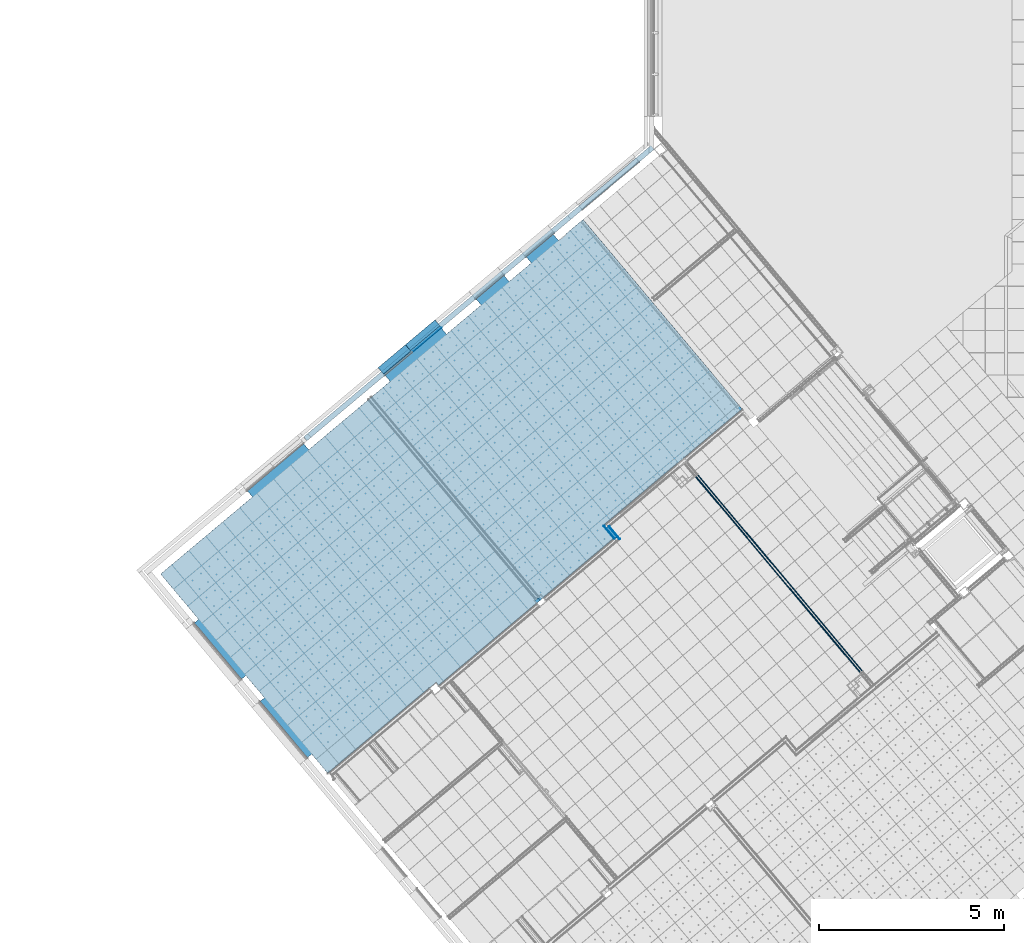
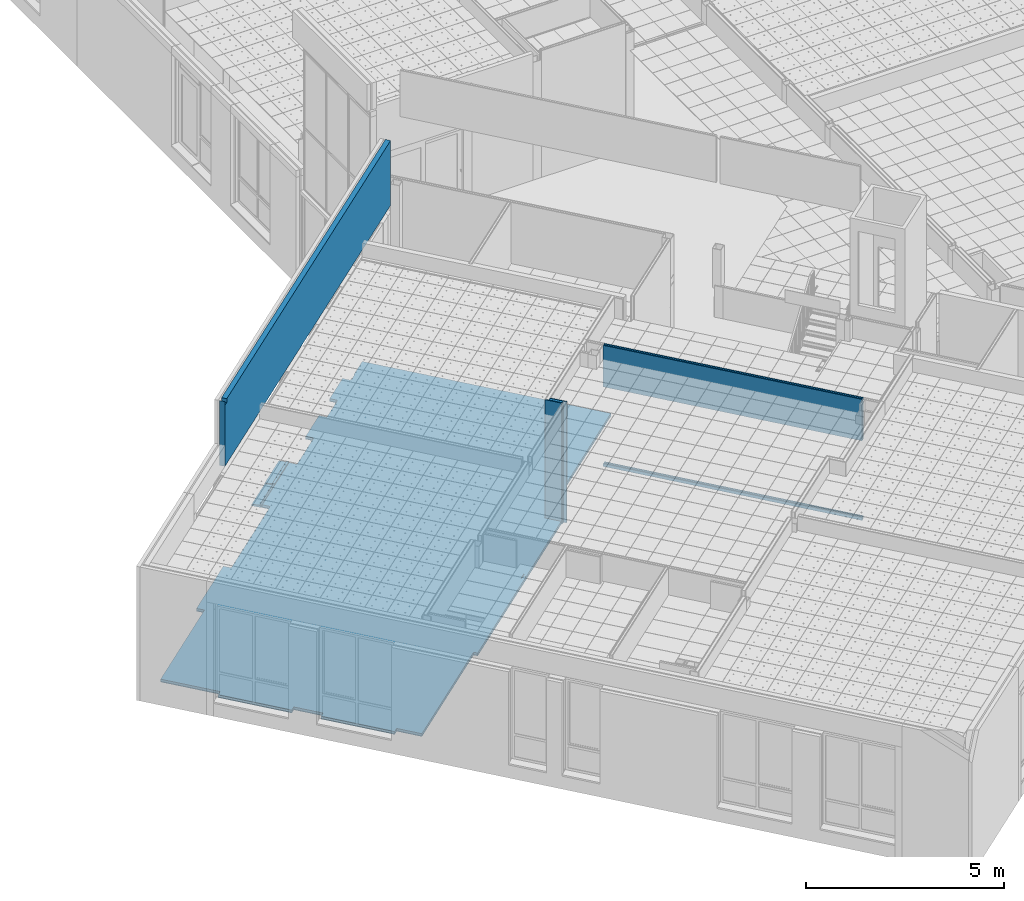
# One storey, part 60 of 338: 17 building element parts, 3 openings, 6 elements without a shape of their own.
"""IFC2X3 building model written with IfcOpenShell, lengths in millimetres."""

from ifc_helpers import new_model, entity, si_unit, converted_unit, derived_unit, money_unit, direction, frame, origin_with_axes, place, context, subcontext, project, spatial, faceted_brep, material, type_object, element, aggregate, save


model = new_model("IFC2X3")

# Units and contexts
model_context = context("Model", 3, precision=0.01, world=origin_with_axes(), true_north=direction((0.0, 1.0)))
plan_context = context("Plan", 3, precision=0.01, world=origin_with_axes(), true_north=direction((0.0, 1.0)))
body_context = subcontext(model_context, "Body", "Model", "MODEL_VIEW")
ifc_project = project(units=[si_unit("LENGTHUNIT", "METRE", prefix="MILLI"), si_unit("AREAUNIT", "SQUARE_METRE"), si_unit("VOLUMEUNIT", "CUBIC_METRE"), converted_unit("PLANEANGLEUNIT", "DEGREE", entity("IfcPlaneAngleMeasure", 0.0174532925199), si_unit("PLANEANGLEUNIT", "RADIAN"), dimensions=[0, 0, 0, 0, 0, 0, 0]), money_unit("EUR"), converted_unit("TIMEUNIT", "Year", entity("IfcTimeMeasure", 31556926.0), si_unit("TIMEUNIT", "SECOND"), dimensions=[0, 0, 1, 0, 0, 0, 0]), si_unit("MASSUNIT", "GRAM", prefix="KILO"), si_unit("THERMODYNAMICTEMPERATUREUNIT", "DEGREE_CELSIUS"), si_unit("LUMINOUSINTENSITYUNIT", "LUMEN"), si_unit("ENERGYUNIT", "JOULE", prefix="MEGA"), derived_unit("THERMALCONDUCTANCEUNIT", [(si_unit("POWERUNIT", "WATT"), 1), (si_unit("LENGTHUNIT", "METRE"), -1), (si_unit("THERMODYNAMICTEMPERATUREUNIT", "KELVIN"), -1)]), derived_unit("SPECIFICHEATCAPACITYUNIT", [(si_unit("ENERGYUNIT", "JOULE"), 1), (si_unit("MASSUNIT", "GRAM", prefix="KILO"), -1), (si_unit("THERMODYNAMICTEMPERATUREUNIT", "KELVIN"), -1)]), derived_unit("MASSDENSITYUNIT", [(si_unit("MASSUNIT", "GRAM", prefix="KILO"), 1), (si_unit("VOLUMEUNIT", "CUBIC_METRE"), -1)])], contexts=[model_context, plan_context])

# Site, building, storey
site_placement = place(None, origin_with_axes())
site = spatial("IfcSite", under=ifc_project, at=site_placement, Name="Fortuinstraat Woensdrecht", CompositionType="ELEMENT")
building_placement = place(site_placement, origin_with_axes())
building = spatial("IfcBuilding", under=site, at=building_placement, Name="IKC Fortuna", CompositionType="ELEMENT")
storey_placement = place(building_placement, origin_with_axes())
storey = spatial("IfcBuildingStorey", under=building, at=storey_placement, Name="00 begane grond", CompositionType="ELEMENT", Elevation=0.0)

# Covering, building element parts
covering_type_1 = type_object("IfcCoveringType", Name="43 Vloerafwerking 90", PredefinedType="FLOORING")
covering_1_placement = place(storey_placement, frame((252.463214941, -67.5154339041, 1450.0), z_axis=(0.0, 0.0, 1.0), x_axis=(1.0, 0.0, 0.0)))
covering_1 = element("IfcCovering", 1, at=covering_1_placement, inside=storey, type_object=covering_type_1, Name="43_Vloerafwerking_Vloerafwerking", PredefinedType="FLOORING")
ifc_material_1 = material(Name="Cement")
building_element_part_1_placement = place(covering_1_placement, origin_with_axes())
building_element_part_1 = element("IfcBuildingElementPart", 2, at=building_element_part_1_placement, material=ifc_material_1, Name="Cement", context=body_context, shape_type="Brep", body=[
    faceted_brep([(10114.0137985, -711.641655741, 0.0), (10282.543576, -570.22838161, 0.0), (10289.6142397, -578.654870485, 0.0), (10221.8193065, -635.541573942, 0.0), (10216.4750163, -643.174011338, 0.0), (10215.6629439, -652.456041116, 0.0), (10219.6006835, -660.900550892, 0.0), (10262.9048588, -712.508457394, 0.0), (12254.7359826, 958.836293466, 0.0), (11965.3650657, 1303.69520408, 0.0), (15723.5788635, 4457.21090519, 0.0), (11421.7227615, 9583.9633695, 0.0), (10955.7405851, 9192.95802698, 0.0), (10967.3840909, 9179.08273843, 0.0), (10788.1295177, 9028.6700074, 0.0), (10776.4862771, 9042.54572504, 0.0), (10751.3797076, 9021.47881181, 0.0), (10613.8959943, 9185.32552107, 0.0), (9884.20122385, 8573.03897664, 0.0), (10021.684974, 8409.19213156, 0.0), (9421.10611273, 7905.24672901, 0.0), (9420.81456148, 7905.00208845, 0.0), (9283.258013, 8068.93559928, 0.0), (8528.22965173, 7435.39159881, 0.0), (8665.78623068, 7271.45815281, 0.0), (7728.1477498, 6484.68599107, 0.0), (7727.85634218, 6484.44147105, 0.0), (7590.29979371, 6648.37498187, 0.0), (6069.22702805, 5372.04338136, 0.0), (6206.783607, 5208.10993536, 0.0), (4005.17183099, 3360.73827072, 0.0), (4004.88034863, 3360.49368797, 0.0), (3867.32380015, 3524.4271988, 0.0), (2346.25102332, 2248.09552998, 0.0), (2483.80760228, 2084.16208398, 0.0), (0.0, 0.0, 0.0), (1027.17469669, -1224.13907047, 0.0), (1028.4601755, -1225.67104446, 0.0), (913.553509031, -1322.08918591, 0.0), (2189.86889768, -2843.14260856, 0.0), (2304.7754838, -2746.72450246, 0.0), (2807.69622062, -3346.08201943, 0.0), (2692.78963449, -3442.50012553, 0.0), (3969.36590078, -4963.86452092, 0.0), (4084.2724869, -4867.44641482, 0.0), (4520.52031705, -5387.34630129, 0.0), (7447.95666909, -2930.93563623, 0.0), (7518.66340472, -3015.20043493, 0.0), (10257.5425477, -717.007970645, 0.0), (10214.2383724, -665.40006416, 0.0), (10206.605935, -660.05577396, 0.0), (10197.3239052, -659.24370158, 0.0), (10188.8793954, -663.181441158, 0.0), (10121.0844622, -720.068144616, 0.0), (10114.0137985, -711.641655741, -50.0), (10282.543576, -570.22838161, -50.0), (10289.6142397, -578.654870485, -50.0), (10221.8193065, -635.541573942, -50.0), (10216.4750163, -643.174011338, -50.0), (10215.6629439, -652.456041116, -50.0), (10219.6006835, -660.900550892, -50.0), (10262.906778, -712.510744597, -50.0), (10257.5444631, -717.010253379, -50.0), (7518.66340472, -3015.20043493, -70.0), (12254.7359826, 958.836293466, -70.0), (11965.3650657, 1303.69520408, -70.0), (15723.5788635, 4457.21090519, -70.0), (11421.7227615, 9583.9633695, -70.0), (10955.7405851, 9192.95802698, -70.0), (10967.3840909, 9179.08273843, -70.0), (10788.1295177, 9028.6700074, -70.0), (10776.4862771, 9042.54572504, -70.0), (10751.3797076, 9021.47881181, -70.0), (10613.8959943, 9185.32552107, -70.0), (9884.20122385, 8573.03897664, -70.0), (10021.684974, 8409.19213156, -70.0), (9421.10611273, 7905.24672901, -70.0), (9420.81456148, 7905.00208845, -70.0), (9283.258013, 8068.93559928, -70.0), (8528.22965173, 7435.39159881, -70.0), (8665.78623068, 7271.45815281, -70.0), (7728.1477498, 6484.68599107, -70.0), (7727.85634218, 6484.44147105, -70.0), (7590.29979371, 6648.37498187, -70.0), (6069.22702805, 5372.04338136, -70.0), (6206.783607, 5208.10993536, -70.0), (4005.17183099, 3360.73827072, -70.0), (4004.88034863, 3360.49368797, -70.0), (3867.32380015, 3524.4271988, -70.0), (2346.25102332, 2248.09552998, -70.0), (2483.80760228, 2084.16208398, -70.0), (0.0, 0.0, -70.0), (1027.17469669, -1224.13907047, -70.0), (1028.4601755, -1225.67104446, -70.0), (913.553509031, -1322.08918591, -70.0), (2189.86889768, -2843.14260856, -70.0), (2304.7754838, -2746.72450246, -70.0), (2807.69622062, -3346.08201943, -70.0), (2692.78963449, -3442.50012553, -70.0), (3969.36590078, -4963.86452092, -70.0), (4084.2724869, -4867.44641482, -70.0), (4520.52031705, -5387.34630129, -70.0), (7447.95666909, -2930.93563623, -70.0), (10214.2383724, -665.40006416, -50.0), (10206.605935, -660.05577396, -50.0), (10197.3239052, -659.24370158, -50.0), (10188.8793954, -663.181441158, -50.0), (10121.0844622, -720.068144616, -50.0)], [[[0, 1, 2, 3, 4, 5, 6, 7, 8, 9, 10, 11, 12, 13, 14, 15, 16, 17, 18, 19, 20, 21, 22, 23, 24, 25, 26, 27, 28, 29, 30, 31, 32, 33, 34, 35, 36, 37, 38, 39, 40, 41, 42, 43, 44, 45, 46, 47, 48, 49, 50, 51, 52, 53]], [[1, 0, 54, 55]], [[2, 1, 55, 56]], [[3, 2, 56, 57]], [[4, 3, 57, 58]], [[5, 4, 58, 59]], [[6, 5, 59, 60]], [[61, 7, 6, 60]], [[62, 48, 47, 63, 64, 8, 7, 61]], [[8, 64, 65, 9]], [[65, 66, 10, 9]], [[67, 11, 10, 66]], [[12, 11, 67, 68]], [[12, 68, 69, 13]], [[13, 69, 70, 14]], [[70, 71, 15, 14]], [[72, 16, 15, 71]], [[73, 17, 16, 72]], [[18, 17, 73, 74]], [[18, 74, 75, 19]], [[75, 76, 20, 19]], [[77, 21, 20, 76]], [[78, 22, 21, 77]], [[23, 22, 78, 79]], [[23, 79, 80, 24]], [[80, 81, 25, 24]], [[82, 26, 25, 81]], [[83, 27, 26, 82]], [[28, 27, 83, 84]], [[28, 84, 85, 29]], [[85, 86, 30, 29]], [[87, 31, 30, 86]], [[88, 32, 31, 87]], [[33, 32, 88, 89]], [[33, 89, 90, 34]], [[34, 90, 91, 35]], [[91, 92, 36, 35]], [[93, 37, 36, 92]], [[94, 38, 37, 93]], [[39, 38, 94, 95]], [[39, 95, 96, 40]], [[40, 96, 97, 41]], [[41, 97, 98, 42]], [[42, 98, 99, 43]], [[43, 99, 100, 44]], [[44, 100, 101, 45]], [[45, 101, 102, 46]], [[46, 102, 63, 47]], [[49, 48, 62, 103]], [[50, 49, 103, 104]], [[51, 50, 104, 105]], [[52, 51, 105, 106]], [[53, 52, 106, 107]], [[0, 53, 107, 54]], [[62, 61, 60, 59, 58, 57, 56, 55, 54, 107, 106, 105, 104, 103]], [[73, 72, 71, 70, 69, 68, 67, 66, 65, 64, 63, 102, 101, 100, 99, 98, 97, 96, 95, 94, 93, 92, 91, 90, 89, 88, 87, 86, 85, 84, 83, 82, 81, 80, 79, 78, 77, 76, 75, 74]]]),
])
ifc_material_2 = material(Name="Isolatie - XPS zwevende dekvloer")
building_element_part_2_placement = place(covering_1_placement, origin_with_axes())
building_element_part_2 = element("IfcBuildingElementPart", 3, at=building_element_part_2_placement, material=ifc_material_2, Name="Isolatie - XPS zwevende dekvloer", context=body_context, shape_type="Brep", body=[
    faceted_brep([(10788.1295177, 9028.6700074, -70.0), (10788.1295177, 9028.6700074, -90.0), (10776.4862771, 9042.54572504, -90.0), (10776.4862771, 9042.54572504, -70.0), (10967.3840909, 9179.08273843, -70.0), (10967.3840909, 9179.08273843, -90.0), (9884.20122385, 8573.03897664, -90.0), (10613.8959943, 9185.32552107, -90.0), (10751.3797076, 9021.47881181, -90.0), (10955.7405851, 9192.95802698, -90.0), (11421.7227615, 9583.9633695, -90.0), (15723.5788635, 4457.21090519, -90.0), (11965.3650657, 1303.69520408, -90.0), (12254.7359826, 958.836293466, -90.0), (7518.66340472, -3015.20043493, -90.0), (7447.95666909, -2930.93563623, -90.0), (4520.52031705, -5387.34630129, -90.0), (4084.2724869, -4867.44641482, -90.0), (3969.36590078, -4963.86452092, -90.0), (2692.78963449, -3442.50012553, -90.0), (2807.69622062, -3346.08201943, -90.0), (2304.7754838, -2746.72450246, -90.0), (2189.86889768, -2843.14260856, -90.0), (913.553509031, -1322.08918591, -90.0), (1028.4601755, -1225.67104446, -90.0), (1027.17469669, -1224.13907047, -90.0), (0.0, 0.0, -90.0), (2483.80760228, 2084.16208398, -90.0), (2346.25102332, 2248.09552998, -90.0), (3867.32380015, 3524.4271988, -90.0), (4004.88034863, 3360.49368797, -90.0), (4005.17183099, 3360.73827072, -90.0), (6206.783607, 5208.10993536, -90.0), (6069.22702805, 5372.04338136, -90.0), (7590.29979371, 6648.37498187, -90.0), (7727.85634218, 6484.44147105, -90.0), (7728.1477498, 6484.68599107, -90.0), (8665.78623068, 7271.45815281, -90.0), (8528.22965173, 7435.39159881, -90.0), (9283.258013, 8068.93559928, -90.0), (9420.81456148, 7905.00208845, -90.0), (9421.10611273, 7905.24672901, -90.0), (10021.684974, 8409.19213156, -90.0), (10751.3797076, 9021.47881181, -70.0), (10613.8959943, 9185.32552107, -70.0), (9884.20122385, 8573.03897664, -70.0), (10021.684974, 8409.19213156, -70.0), (9421.10611273, 7905.24672901, -70.0), (9420.81456148, 7905.00208845, -70.0), (9283.258013, 8068.93559928, -70.0), (8528.22965173, 7435.39159881, -70.0), (8665.78623068, 7271.45815281, -70.0), (7728.1477498, 6484.68599107, -70.0), (7727.85634218, 6484.44147105, -70.0), (7590.29979371, 6648.37498187, -70.0), (6069.22702805, 5372.04338136, -70.0), (6206.783607, 5208.10993536, -70.0), (4005.17183099, 3360.73827072, -70.0), (4004.88034863, 3360.49368797, -70.0), (3867.32380015, 3524.4271988, -70.0), (2346.25102332, 2248.09552998, -70.0), (2483.80760228, 2084.16208398, -70.0), (0.0, 0.0, -70.0), (1027.17469669, -1224.13907047, -70.0), (1028.4601755, -1225.67104446, -70.0), (913.553509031, -1322.08918591, -70.0), (2189.86889768, -2843.14260856, -70.0), (2304.7754838, -2746.72450246, -70.0), (2807.69622062, -3346.08201943, -70.0), (2692.78963449, -3442.50012553, -70.0), (3969.36590078, -4963.86452092, -70.0), (4084.2724869, -4867.44641482, -70.0), (4520.52031705, -5387.34630129, -70.0), (7447.95666909, -2930.93563623, -70.0), (7518.66340472, -3015.20043493, -70.0), (12254.7359826, 958.836293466, -70.0), (11965.3650657, 1303.69520408, -70.0), (15723.5788635, 4457.21090519, -70.0), (11421.7227615, 9583.9633695, -70.0), (10955.7405851, 9192.95802698, -70.0)], [[[0, 1, 2, 3]], [[1, 0, 4, 5]], [[6, 7, 8, 2, 1, 5, 9, 10, 11, 12, 13, 14, 15, 16, 17, 18, 19, 20, 21, 22, 23, 24, 25, 26, 27, 28, 29, 30, 31, 32, 33, 34, 35, 36, 37, 38, 39, 40, 41, 42]], [[2, 8, 43, 3]], [[0, 3, 43, 44, 45, 46, 47, 48, 49, 50, 51, 52, 53, 54, 55, 56, 57, 58, 59, 60, 61, 62, 63, 64, 65, 66, 67, 68, 69, 70, 71, 72, 73, 74, 75, 76, 77, 78, 79, 4]], [[5, 4, 79, 9]], [[6, 45, 44, 7]], [[8, 7, 44, 43]], [[9, 79, 78, 10]], [[11, 10, 78, 77]], [[76, 12, 11, 77]], [[12, 76, 75, 13]], [[13, 75, 74, 14]], [[14, 74, 73, 15]], [[15, 73, 72, 16]], [[16, 72, 71, 17]], [[17, 71, 70, 18]], [[18, 70, 69, 19]], [[19, 69, 68, 20]], [[20, 68, 67, 21]], [[21, 67, 66, 22]], [[22, 66, 65, 23]], [[24, 23, 65, 64]], [[25, 24, 64, 63]], [[62, 26, 25, 63]], [[26, 62, 61, 27]], [[27, 61, 60, 28]], [[28, 60, 59, 29]], [[30, 29, 59, 58]], [[31, 30, 58, 57]], [[56, 32, 31, 57]], [[32, 56, 55, 33]], [[33, 55, 54, 34]], [[35, 34, 54, 53]], [[36, 35, 53, 52]], [[51, 37, 36, 52]], [[37, 51, 50, 38]], [[38, 50, 49, 39]], [[40, 39, 49, 48]], [[41, 40, 48, 47]], [[46, 42, 41, 47]], [[42, 46, 45, 6]]]),
])
aggregate(covering_1, [building_element_part_1, building_element_part_2])

# Wall, openings, building element parts
wall_type_1 = type_object("IfcWallType", Name="MS100 2.50.2A 100", PredefinedType="NOTDEFINED")
wall_1_placement = place(storey_placement, frame((19252.4628668, -2704.22469748, 1360.0), z_axis=(0.0, 0.0, 1.0), x_axis=(-0.642787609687, 0.766044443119, 0.0)))
wall_1 = element("IfcWall", 4, at=wall_1_placement, inside=storey, type_object=wall_type_1, Name="22_Wand_Binnenwand")
opening_1_placement = place(wall_1_placement, frame((5886.46009833, 0.0, 90.0), z_axis=(0.0, 0.0, 1.0), x_axis=(1.0, 0.0, 0.0)))
element("IfcOpeningElement", 5, at=opening_1_placement, cuts=wall_1, Name="32_Raam_h.09", context=body_context, shape_type="Brep", body=[
    faceted_brep([(-1078.84079083, 100.0, 2367.0), (-1078.84079083, 100.0, 0.0), (-1078.84079083, -200.0, 0.0), (-1078.84079083, -200.0, 2367.0), (1078.84079083, 100.0, 2367.0), (1078.84079083, 100.0, 0.0), (1078.84079083, -200.0, 0.0), (1078.84079083, -200.0, 2367.0)], [[[0, 1, 2, 3]], [[0, 4, 5, 1]], [[1, 5, 6, 2]], [[3, 2, 6, 7]], [[4, 0, 3, 7]], [[5, 4, 7, 6]]]),
])
opening_2_placement = place(wall_1_placement, frame((1508.80965375, 0.0, 90.0), z_axis=(0.0, 0.0, 1.0), x_axis=(1.0, 0.0, 0.0)))
element("IfcOpeningElement", 6, at=opening_2_placement, cuts=wall_1, Name="32_Raam_h.07", context=body_context, shape_type="Brep", body=[
    faceted_brep([(-1508.80965375, 100.0, 2367.0), (-1508.80965375, 100.0, 0.0), (-1508.80965375, -200.0, 0.0), (-1508.80965375, -200.0, 2367.0), (1508.80965375, 100.0, 2367.0), (1508.80965375, 100.0, 0.0), (1508.80965375, -200.0, 0.0), (1508.80965375, -200.0, 2367.0)], [[[0, 1, 2, 3]], [[0, 4, 5, 1]], [[1, 5, 6, 2]], [[3, 2, 6, 7]], [[4, 0, 3, 7]], [[5, 4, 7, 6]]]),
])
opening_3_placement = place(wall_1_placement, frame((3912.6193075, 0.0, 90.0), z_axis=(0.0, 0.0, 1.0), x_axis=(1.0, 0.0, 0.0)))
element("IfcOpeningElement", 7, at=opening_3_placement, cuts=wall_1, Name="32_Deur_h.08", context=body_context, shape_type="Brep", body=[
    faceted_brep([(895.0, -100.0, 2367.0), (895.0, -100.0, 0.0), (895.0, 214.0, 0.0), (895.0, 214.0, 2367.0), (-895.0, -100.0, 2367.0), (-895.0, -100.0, 0.0), (-895.0, 214.0, 0.0), (-895.0, 214.0, 2367.0)], [[[0, 1, 2, 3]], [[0, 4, 5, 1]], [[1, 5, 6, 2]], [[3, 2, 6, 7]], [[4, 0, 3, 7]], [[5, 4, 7, 6]]]),
])
ifc_material_3 = material(Name="Gipsplaat")
building_element_part_3_placement = place(wall_1_placement, origin_with_axes())
building_element_part_3 = element("IfcBuildingElementPart", 8, at=building_element_part_3_placement, material=ifc_material_3, Name="Gipsplaat", context=body_context, shape_type="Brep", body=[
    faceted_brep([(4807.6193075, 87.5, 90.0), (3017.6193075, 87.5, 90.0), (0.0, 87.5, 90.0), (0.0, 87.5, 0.0), (6965.30088915, 87.5, 0.0), (6965.30088915, 87.5, 90.0), (4807.6193075, 100.0, 90.0), (3017.6193075, 100.0, 90.0), (0.0, 100.0, 90.0), (6965.30088915, 100.0, 90.0), (0.0, 100.0, 0.0), (6965.30088915, 100.0, 0.0)], [[[0, 1, 2, 3, 4, 5]], [[6, 7, 8, 2, 1, 0, 5, 9]], [[8, 10, 3, 2]], [[4, 3, 10, 11]], [[4, 11, 9, 5]], [[7, 6, 9, 11, 10, 8]]]),
    faceted_brep([(3017.6193075, 100.0, 2457.0), (4807.6193075, 100.0, 2457.0), (6965.30088915, 100.0, 2457.0), (6965.30088915, 87.5, 2457.0), (4807.6193075, 87.5, 2457.0), (3017.6193075, 87.5, 2457.0), (0.0, 87.5, 2457.0), (0.0, 100.0, 2457.0), (0.0, 100.0, 3740.0), (6965.30088915, 100.0, 3740.0), (6965.30088915, 87.5, 3740.0), (0.0, 87.5, 3740.0)], [[[0, 1, 2, 3, 4, 5, 6, 7]], [[1, 0, 7, 8, 9, 2]], [[9, 10, 3, 2]], [[5, 4, 3, 10, 11, 6]], [[6, 11, 8, 7]], [[9, 8, 11, 10]]]),
])
building_element_part_4_placement = place(wall_1_placement, origin_with_axes())
building_element_part_4 = element("IfcBuildingElementPart", 9, at=building_element_part_4_placement, material=ifc_material_3, Name="Gipsplaat", context=body_context, shape_type="Brep", body=[
    faceted_brep([(4807.6193075, 75.0, 90.0), (3017.6193075, 75.0, 90.0), (0.0, 75.0, 90.0), (0.0, 75.0, 0.0), (6965.30088915, 75.0, 0.0), (6965.30088915, 75.0, 90.0), (4807.6193075, 87.5, 90.0), (3017.6193075, 87.5, 90.0), (0.0, 87.5, 90.0), (6965.30088915, 87.5, 90.0), (0.0, 87.5, 0.0), (6965.30088915, 87.5, 0.0)], [[[0, 1, 2, 3, 4, 5]], [[6, 7, 8, 2, 1, 0, 5, 9]], [[8, 10, 3, 2]], [[4, 3, 10, 11]], [[4, 11, 9, 5]], [[7, 6, 9, 11, 10, 8]]]),
    faceted_brep([(3017.6193075, 87.5, 2457.0), (4807.6193075, 87.5, 2457.0), (6965.30088915, 87.5, 2457.0), (6965.30088915, 75.0, 2457.0), (4807.6193075, 75.0, 2457.0), (3017.6193075, 75.0, 2457.0), (0.0, 75.0, 2457.0), (0.0, 87.5, 2457.0), (0.0, 87.5, 3740.0), (6965.30088915, 87.5, 3740.0), (6965.30088915, 75.0, 3740.0), (0.0, 75.0, 3740.0)], [[[0, 1, 2, 3, 4, 5, 6, 7]], [[1, 0, 7, 8, 9, 2]], [[9, 10, 3, 2]], [[5, 4, 3, 10, 11, 6]], [[6, 11, 8, 7]], [[9, 8, 11, 10]]]),
])
ifc_material_4 = material(Name="Isolatie - Steenwol LSW")
building_element_part_5_placement = place(wall_1_placement, origin_with_axes())
building_element_part_5 = element("IfcBuildingElementPart", 10, at=building_element_part_5_placement, material=ifc_material_4, Name="Isolatie - Steenwol LSW", context=body_context, shape_type="Brep", body=[
    faceted_brep([(4807.6193075, 25.0, 90.0), (3017.6193075, 25.0, 90.0), (0.0, 25.0, 90.0), (0.0, 25.0, 0.0), (6965.30088915, 25.0, 0.0), (6965.30088915, 25.0, 90.0), (4807.6193075, 75.0, 90.0), (3017.6193075, 75.0, 90.0), (0.0, 75.0, 90.0), (6965.30088915, 75.0, 90.0), (0.0, 75.0, 0.0), (6965.30088915, 75.0, 0.0)], [[[0, 1, 2, 3, 4, 5]], [[6, 7, 8, 2, 1, 0, 5, 9]], [[8, 10, 3, 2]], [[4, 3, 10, 11]], [[4, 11, 9, 5]], [[7, 6, 9, 11, 10, 8]]]),
    faceted_brep([(3017.6193075, 75.0, 2457.0), (4807.6193075, 75.0, 2457.0), (6965.30088915, 75.0, 2457.0), (6965.30088915, 25.0, 2457.0), (4807.6193075, 25.0, 2457.0), (3017.6193075, 25.0, 2457.0), (0.0, 25.0, 2457.0), (0.0, 75.0, 2457.0), (0.0, 75.0, 3740.0), (6965.30088915, 75.0, 3740.0), (6965.30088915, 25.0, 3740.0), (0.0, 25.0, 3740.0)], [[[0, 1, 2, 3, 4, 5, 6, 7]], [[1, 0, 7, 8, 9, 2]], [[9, 10, 3, 2]], [[5, 4, 3, 10, 11, 6]], [[6, 11, 8, 7]], [[9, 8, 11, 10]]]),
])
building_element_part_6_placement = place(wall_1_placement, origin_with_axes())
building_element_part_6 = element("IfcBuildingElementPart", 11, at=building_element_part_6_placement, material=ifc_material_3, Name="Gipsplaat", context=body_context, shape_type="Brep", body=[
    faceted_brep([(4807.6193075, 12.5, 90.0), (3017.6193075, 12.5, 90.0), (0.0, 12.5, 90.0), (0.0, 12.5, 0.0), (6965.30088915, 12.5, 0.0), (6965.30088915, 12.5, 90.0), (4807.6193075, 25.0, 90.0), (3017.6193075, 25.0, 90.0), (0.0, 25.0, 90.0), (6965.30088915, 25.0, 90.0), (0.0, 25.0, 0.0), (6965.30088915, 25.0, 0.0)], [[[0, 1, 2, 3, 4, 5]], [[6, 7, 8, 2, 1, 0, 5, 9]], [[8, 10, 3, 2]], [[4, 3, 10, 11]], [[4, 11, 9, 5]], [[7, 6, 9, 11, 10, 8]]]),
    faceted_brep([(3017.6193075, 25.0, 2457.0), (4807.6193075, 25.0, 2457.0), (6965.30088915, 25.0, 2457.0), (6965.30088915, 12.5, 2457.0), (4807.6193075, 12.5, 2457.0), (3017.6193075, 12.5, 2457.0), (0.0, 12.5, 2457.0), (0.0, 25.0, 2457.0), (0.0, 25.0, 3740.0), (6965.30088915, 25.0, 3740.0), (6965.30088915, 12.5, 3740.0), (0.0, 12.5, 3740.0)], [[[0, 1, 2, 3, 4, 5, 6, 7]], [[1, 0, 7, 8, 9, 2]], [[9, 10, 3, 2]], [[5, 4, 3, 10, 11, 6]], [[6, 11, 8, 7]], [[9, 8, 11, 10]]]),
])
building_element_part_7_placement = place(wall_1_placement, origin_with_axes())
building_element_part_7 = element("IfcBuildingElementPart", 12, at=building_element_part_7_placement, material=ifc_material_3, Name="Gipsplaat", context=body_context, shape_type="Brep", body=[
    faceted_brep([(4807.6193075, 0.0, 90.0), (3017.6193075, 0.0, 90.0), (0.0, 0.0, 90.0), (0.0, 0.0, 0.0), (6965.30088915, 0.0, 0.0), (6965.30088915, 0.0, 90.0), (4807.6193075, 12.5, 90.0), (3017.6193075, 12.5, 90.0), (0.0, 12.5, 90.0), (6965.30088915, 12.5, 90.0), (0.0, 12.5, 0.0), (6965.30088915, 12.5, 0.0)], [[[0, 1, 2, 3, 4, 5]], [[6, 7, 8, 2, 1, 0, 5, 9]], [[8, 10, 3, 2]], [[4, 3, 10, 11]], [[4, 11, 9, 5]], [[7, 6, 9, 11, 10, 8]]]),
    faceted_brep([(3017.6193075, 12.5, 2457.0), (4807.6193075, 12.5, 2457.0), (6965.30088915, 12.5, 2457.0), (6965.30088915, 0.0, 2457.0), (4807.6193075, 0.0, 2457.0), (3017.6193075, 0.0, 2457.0), (0.0, 0.0, 2457.0), (0.0, 12.5, 2457.0), (0.0, 12.5, 3740.0), (6965.30088915, 12.5, 3740.0), (6965.30088915, 0.0, 3740.0), (0.0, 0.0, 3740.0)], [[[0, 1, 2, 3, 4, 5, 6, 7]], [[1, 0, 7, 8, 9, 2]], [[9, 10, 3, 2]], [[5, 4, 3, 10, 11, 6]], [[6, 11, 8, 7]], [[9, 8, 11, 10]]]),
])
aggregate(wall_1, [building_element_part_3, building_element_part_4, building_element_part_5, building_element_part_6, building_element_part_7])

# Wall, building element part
wall_type_2 = type_object("IfcWallType", Name="21 MW hoofd 280", PredefinedType="NOTDEFINED")
wall_2_placement = place(storey_placement, frame((13595.4349765, 11407.9244745, 4447.5), z_axis=(0.0, 0.0, 1.0), x_axis=(-0.766044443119, -0.642787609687, 0.0)))
wall_2 = element("IfcWall", 13, at=wall_2_placement, inside=storey, type_object=wall_type_2, Name="21_Wand_Baksteen")
ifc_material_5 = material(Name="ALG - ISOLATIE")
building_element_part_8_placement = place(wall_2_placement, origin_with_axes())
building_element_part_8 = element("IfcBuildingElementPart", 14, at=building_element_part_8_placement, material=ifc_material_5, Name="ALG - ISOLATIE", context=body_context, shape_type="Brep", body=[
    faceted_brep([(0.0, -140.0, 2000.0), (12112.5799087, -140.0, 2000.0), (12112.5799087, 0.0, 2000.0), (0.0, 0.0, 2000.0), (12252.5799087, -140.0, 1882.49999925), (12112.5799087, -140.0, 1882.49999925), (0.0, -140.0, 0.0), (12252.67992, -140.0, 0.0), (12252.67992, -140.0, 2000.0), (12252.5799087, -140.0, 2000.0), (12112.5799087, 0.0, 1882.49999925), (12252.5799087, 0.0, 1882.49999925), (12252.5799087, 0.0, 2000.0), (12252.67992, 0.0, 2000.0), (12252.67992, 0.0, 0.0), (0.0, 0.0, 0.0)], [[[0, 1, 2, 3]], [[4, 5, 1, 0, 6, 7, 8, 9]], [[5, 10, 2, 1]], [[2, 10, 11, 12, 13, 14, 15, 3]], [[0, 3, 15, 6]], [[11, 10, 5, 4]], [[6, 15, 14, 7]], [[8, 7, 14, 13]], [[13, 12, 9, 8]], [[4, 9, 12, 11]]]),
])
aggregate(wall_2, [building_element_part_8])

# Wall, building element parts
wall_type_3 = type_object("IfcWallType", Name="MS125 2.75.2A 125", PredefinedType="NOTDEFINED")
wall_3_placement = place(storey_placement, frame((12635.3089168, 835.878416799, 1360.0), z_axis=(0.0, 0.0, 1.0), x_axis=(-0.642787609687, 0.766044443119, 0.0)))
wall_3 = element("IfcWall", 15, at=wall_3_placement, inside=storey, type_object=wall_type_3, Name="22_Wand_Binnenwand")
building_element_part_9_placement = place(wall_3_placement, origin_with_axes())
building_element_part_9 = element("IfcBuildingElementPart", 16, at=building_element_part_9_placement, material=ifc_material_3, Name="Gipsplaat", context=body_context, shape_type="Brep", body=[
    faceted_brep([(562.5, 62.5, 3740.0), (125.0, 62.5, 3740.0), (125.0, 50.0, 3740.0), (562.5, 50.0, 3740.0), (562.5, 62.5, 0.0), (125.0, 62.5, 0.0), (125.0, 50.0, 0.0), (562.5, 50.0, 0.0)], [[[0, 1, 2, 3]], [[4, 5, 1, 0]], [[2, 1, 5, 6]], [[3, 2, 6, 7]], [[3, 7, 4, 0]], [[7, 6, 5, 4]]]),
])
building_element_part_10_placement = place(wall_3_placement, origin_with_axes())
building_element_part_10 = element("IfcBuildingElementPart", 17, at=building_element_part_10_placement, material=ifc_material_3, Name="Gipsplaat", context=body_context, shape_type="Brep", body=[
    faceted_brep([(550.0, 50.0, 3740.0), (112.5, 50.0, 3740.0), (112.5, 37.5, 3740.0), (550.0, 37.5, 3740.0), (550.0, 50.0, 0.0), (112.5, 50.0, 0.0), (112.5, 37.5, 0.0), (550.0, 37.5, 0.0)], [[[0, 1, 2, 3]], [[4, 5, 1, 0]], [[2, 1, 5, 6]], [[3, 2, 6, 7]], [[3, 7, 4, 0]], [[7, 6, 5, 4]]]),
])
building_element_part_11_placement = place(wall_3_placement, origin_with_axes())
building_element_part_11 = element("IfcBuildingElementPart", 18, at=building_element_part_11_placement, material=ifc_material_4, Name="Isolatie - Steenwol LSW", context=body_context, shape_type="Brep", body=[
    faceted_brep([(475.0, 37.5, 3740.0), (100.0, 37.5, 3740.0), (100.0, -37.5, 3740.0), (475.0, -37.5, 3740.0), (475.0, 37.5, 0.0), (100.0, 37.5, 0.0), (100.0, -37.5, 0.0), (475.0, -37.5, 0.0)], [[[0, 1, 2, 3]], [[4, 5, 1, 0]], [[2, 1, 5, 6]], [[3, 2, 6, 7]], [[3, 7, 4, 0]], [[7, 6, 5, 4]]]),
])
building_element_part_12_placement = place(wall_3_placement, origin_with_axes())
building_element_part_12 = element("IfcBuildingElementPart", 19, at=building_element_part_12_placement, material=ifc_material_3, Name="Gipsplaat", context=body_context, shape_type="Brep", body=[
    faceted_brep([(462.5, -37.5, 3740.0), (25.0, -37.5, 3740.0), (25.0, -50.0, 3740.0), (462.5, -50.0, 3740.0), (462.5, -37.5, 0.0), (25.0, -37.5, 0.0), (25.0, -50.0, 0.0), (462.5, -50.0, 0.0)], [[[0, 1, 2, 3]], [[4, 5, 1, 0]], [[2, 1, 5, 6]], [[3, 2, 6, 7]], [[3, 7, 4, 0]], [[7, 6, 5, 4]]]),
])
building_element_part_13_placement = place(wall_3_placement, origin_with_axes())
building_element_part_13 = element("IfcBuildingElementPart", 20, at=building_element_part_13_placement, material=ifc_material_3, Name="Gipsplaat", context=body_context, shape_type="Brep", body=[
    faceted_brep([(450.0, -50.0, 3740.0), (12.5, -50.0, 3740.0), (12.5, -62.5, 3740.0), (450.0, -62.5, 3740.0), (450.0, -50.0, 0.0), (12.5, -50.0, 0.0), (12.5, -62.5, 0.0), (450.0, -62.5, 0.0)], [[[0, 1, 2, 3]], [[4, 5, 1, 0]], [[2, 1, 5, 6]], [[3, 2, 6, 7]], [[3, 7, 4, 0]], [[7, 6, 5, 4]]]),
])
aggregate(wall_3, [building_element_part_9, building_element_part_10, building_element_part_11, building_element_part_12, building_element_part_13])

# Covering, building element parts
covering_type_2 = type_object("IfcCoveringType", Name="41 dorpel 1450 280 x 88", PredefinedType="NOTDEFINED")
covering_2_placement = place(storey_placement, frame((6222.50740632, 5404.06078097, 1447.5), z_axis=(0.0, 0.0, 1.0), x_axis=(0.766044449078, 0.642787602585, 0.0)))
covering_2 = element("IfcCovering", 21, at=covering_2_placement, inside=storey, type_object=covering_type_2, Name="41_Afwerking_Dorpel", PredefinedType="NOTDEFINED")
ifc_material_6 = material(Name="Steen - Kunststeen")
building_element_part_14_placement = place(covering_2_placement, origin_with_axes())
building_element_part_14 = element("IfcBuildingElementPart", 22, at=building_element_part_14_placement, material=ifc_material_6, Name="Steen - Kunststeen", context=body_context, shape_type="Brep", body=[
    faceted_brep([(966.999999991, 140.0, -39.7722078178), (966.999999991, 140.0, -85.0), (0.0, 140.0, -85.0), (0.0, 140.0, -39.7722078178), (966.999999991, -82.0, -19.5865456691), (966.999999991, -82.0, 2.5), (966.999999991, -92.0, 2.5), (966.999999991, -92.0, -85.0), (0.0, -92.0, -85.0), (0.0, -92.0, 2.5), (0.0, -82.0, 2.5), (0.0, -82.0, -19.5865456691)], [[[0, 1, 2, 3]], [[0, 4, 5, 6, 7, 1]], [[1, 7, 8, 2]], [[3, 2, 8, 9, 10, 11]], [[4, 0, 3, 11]], [[5, 4, 11, 10]], [[6, 5, 10, 9]], [[7, 6, 9, 8]]]),
])
ifc_material_7 = material(Name="Hout AFW")
building_element_part_15_placement = place(covering_2_placement, origin_with_axes())
building_element_part_15 = element("IfcBuildingElementPart", 23, at=building_element_part_15_placement, material=ifc_material_7, Name="Hout AFW", context=body_context, shape_type="Brep", body=[
    faceted_brep([(966.999999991, -92.0000008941, 2.49999910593), (966.999999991, -92.0000008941, -85.0), (0.0, -92.0000008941, -85.0), (0.0, -92.0000008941, 2.49999910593), (966.999999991, -130.0, 2.49999910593), (966.999999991, -130.0, -85.0), (0.0, -130.0, -85.0), (0.0, -130.0, 2.49999910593)], [[[0, 1, 2, 3]], [[0, 4, 5, 1]], [[1, 5, 6, 2]], [[3, 2, 6, 7]], [[4, 0, 3, 7]], [[5, 4, 7, 6]]]),
])
aggregate(covering_2, [building_element_part_14, building_element_part_15])

covering_type_3 = type_object("IfcCoveringType", Name="41 dorpel d bi 1450 280 x 108", PredefinedType="NOTDEFINED")
covering_3_placement = place(storey_placement, frame((6963.2723828, 6025.63639954, 1447.5), z_axis=(0.0, 0.0, 1.0), x_axis=(0.766044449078, 0.642787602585, 0.0)))
covering_3 = element("IfcCovering", 24, at=covering_3_placement, inside=storey, type_object=covering_type_3, Name="41_Afwerking_Dorpel", PredefinedType="NOTDEFINED")
building_element_part_16_placement = place(covering_3_placement, origin_with_axes())
building_element_part_16 = element("IfcBuildingElementPart", 25, at=building_element_part_16_placement, material=ifc_material_6, Name="Steen - Kunststeen", context=body_context, shape_type="Brep", body=[
    faceted_brep([(1043.0, 140.0, -16.4126924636), (1043.0, 140.0, -85.0), (0.0, 140.0, -85.0), (0.0, 140.0, -16.4126924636), (1043.0, -68.0, 2.5), (1043.0, -68.0, 22.5), (1043.0, -130.0, 22.5), (1043.0, -129.999999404, 2.5), (1043.0, -130.0, -85.0), (0.0, -130.0, -85.0), (0.0, -129.999999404, 2.5), (0.0, -130.0, 22.5), (0.0, -68.0, 22.5), (0.0, -68.0, 2.5)], [[[0, 1, 2, 3]], [[0, 4, 5, 6, 7, 8, 1]], [[1, 8, 9, 2]], [[3, 2, 9, 10, 11, 12, 13]], [[4, 0, 3, 13]], [[5, 4, 13, 12]], [[6, 5, 12, 11]], [[7, 6, 11, 10]], [[8, 7, 10, 9]]]),
])
ifc_material_8 = material(Name="Isolatie - PUR gespoten")
building_element_part_17_placement = place(covering_3_placement, origin_with_axes())
building_element_part_17 = element("IfcBuildingElementPart", 26, at=building_element_part_17_placement, material=ifc_material_8, Name="Isolatie - PUR gespoten", context=body_context, shape_type="Brep", body=[
    faceted_brep([(1043.0, -140.0, 2.5), (1043.0, -129.999999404, 2.5), (0.0, -129.999999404, 2.5), (0.0, -140.0, 2.5), (1043.0, -140.0, -85.0), (1043.0, -129.999999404, -85.0), (0.0, -129.999999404, -85.0), (0.0, -140.0, -85.0)], [[[0, 1, 2, 3]], [[0, 4, 5, 1]], [[1, 5, 6, 2]], [[3, 2, 6, 7]], [[4, 0, 3, 7]], [[5, 4, 7, 6]]]),
])
aggregate(covering_3, [building_element_part_16, building_element_part_17])

save(model, "model.ifc")
